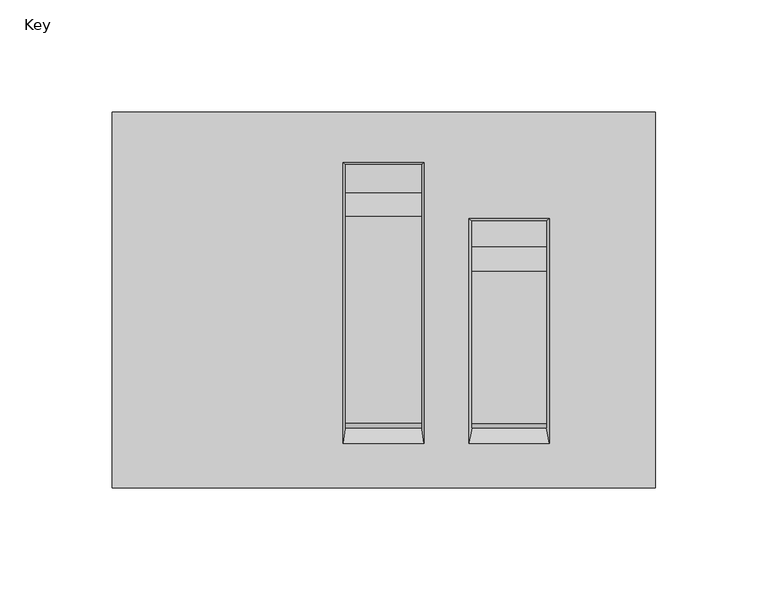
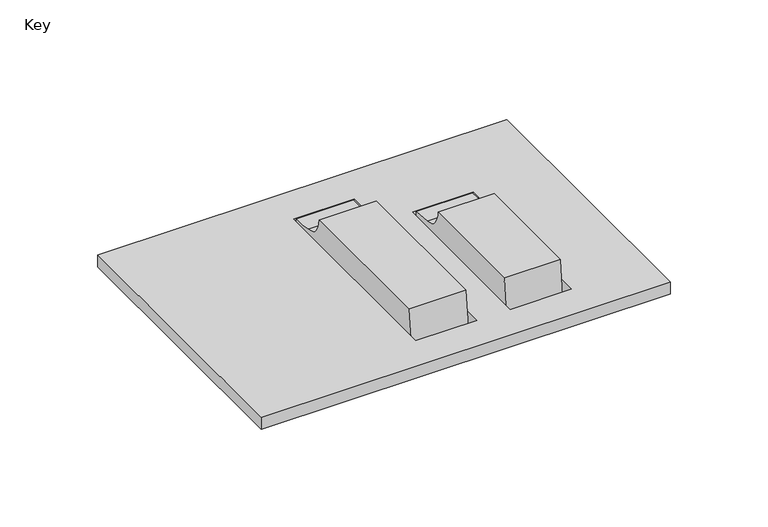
"""IFC4 building model written with IfcOpenShell, lengths in millimetres: flow terminal geometry, Key : KEY CHR GL."""

from ifc_helpers import new_model, si_unit, point, frame, frame_2d, origin, place, context, project, spatial, polyline, circle_curve, trimmed, segment, composite_curve, outline, extrude, faceted_brep, source, transform, mapped, element, save


def key_20b313d8(model_context):
    return source(origin(), model_context, "Body", "SolidModel", [
        faceted_brep([(121.2669709, 83.9621832, 7.5775421), (-121.1711314, 83.9621832, 7.5775421), (-121.1711314, -83.7689489, 7.5775421), (121.2669709, -83.7689489, 7.5775421), (17.9310004, 61.4539978, 7.5775421), (17.9310004, -63.9530005, 7.5775421), (-18.1110005, -63.9530005, 7.5775421), (-18.1110005, 61.4539978, 7.5775421), (73.9459997, 36.4289992, 7.5775421), (73.9459997, -63.9810011, 7.5775421), (37.9500001, -63.9810011, 7.5775421), (37.9500001, 36.4289992, 7.5775421), (121.2669709, 83.9621832, 0.0), (121.2669709, -83.7689489, 0.0), (-121.1711314, -83.7689489, 0.0), (-121.1711314, 83.9621832, 0.0), (16.7933619, -56.0329974, 0.0), (16.7933619, 60.538171, 0.0), (-16.990874, 60.538171, 0.0), (-16.990874, -56.0329974, 0.0), (72.6221885, -57.0840004, 0.0), (72.6221885, 35.346088, 0.0), (39.431603, 35.346088, 0.0), (39.431603, -57.0840004, 0.0)], [[[0, 1, 2, 3], [4, 5, 6, 7], [8, 9, 10, 11]], [[12, 13, 14, 15], [16, 17, 18, 19], [20, 21, 22, 23]], [[1, 0, 12, 15]], [[2, 1, 15, 14]], [[3, 2, 14, 13]], [[0, 3, 13, 12]], [[4, 17, 16, 5]], [[17, 4, 7, 18]], [[18, 7, 6, 19]], [[5, 16, 19, 6]], [[20, 9, 8, 21]], [[21, 8, 11, 22]], [[22, 11, 10, 23]], [[9, 20, 23, 10]]]),
        extrude(outline(composite_curve([segment(polyline([(-55.2050959, 21.4759761), (12.7365184, 21.4759761)]), True, "CONTINUOUS"), segment(trimmed(circle_curve(frame_2d((24.852244, 21.1863112)), 12.1191878), [point((12.7365184, 21.4759761))], [point((23.8738839, 9.1066786))], True, "CARTESIAN"), True, "CONTINUOUS"), segment(trimmed(circle_curve(frame_2d((38.4461161, 117.7401728)), 109.6065053), [point((23.8738839, 9.1066786))], [point((35.346088, 8.1775156))], True, "CARTESIAN"), True, "CONTINUOUS"), segment(polyline([(35.346088, 8.1775156), (35.346088, 0.0), (-57.0840004, 0.0), (-55.2050959, 21.4759761)]), True, "CONTINUOUS")], self_intersect=False)), frame((39.431603, 0.0, 0.0), z_axis=(1.0, 0.0, 0.0), x_axis=(0.0, 1.0, 0.0)), (0.0, 0.0, 1.0), 33.1905855),
        extrude(outline(composite_curve([segment(trimmed(circle_curve(frame_2d((49.0750351, 20.89773)), 11.8685087), [point((37.2206212, 21.4759761))], [point((48.0937473, 9.0698573))], True, "CARTESIAN"), True, "CONTINUOUS"), segment(trimmed(circle_curve(frame_2d((58.111907, 49.0841083)), 41.2492885), [point((48.0937473, 9.0698573))], [point((60.538171, 7.9062374))], True, "CARTESIAN"), True, "CONTINUOUS"), segment(polyline([(60.538171, 7.9062374), (60.538171, 0.0), (-57.3514565, 0.0), (-54.7145382, 21.4759761), (37.2206212, 21.4759761)]), True, "CONTINUOUS")], self_intersect=False)), frame((-16.990874, 0.0, 0.0), z_axis=(1.0, 0.0, 0.0), x_axis=(0.0, 1.0, 0.0)), (0.0, 0.0, 1.0), 33.7842359),
    ])


if __name__ == "__main__":
    model = new_model("IFC4")
    model_context = context("Model", 3, world=origin())
    ifc_project = project(units=[si_unit("LENGTHUNIT", "METRE", prefix="MILLI")], contexts=[model_context])
    site = spatial("IfcSite", under=ifc_project)
    building = spatial("IfcBuilding", under=site)
    placement = place(None, origin())
    key_shape = key_20b313d8(model_context)
    element("IfcFlowTerminal", 1, ObjectType="Key : KEY CHR GL", at=placement, inside=building, context=model_context, shape_type="MappedRepresentation", body=[
        mapped(key_shape, transform((0.0, 0.0, 0.0), x_axis=(1.0, 0.0, 0.0), y_axis=(0.0, 1.0, 0.0), z_axis=(0.0, 0.0, 1.0))),
    ])
    save(model, "model.ifc")
